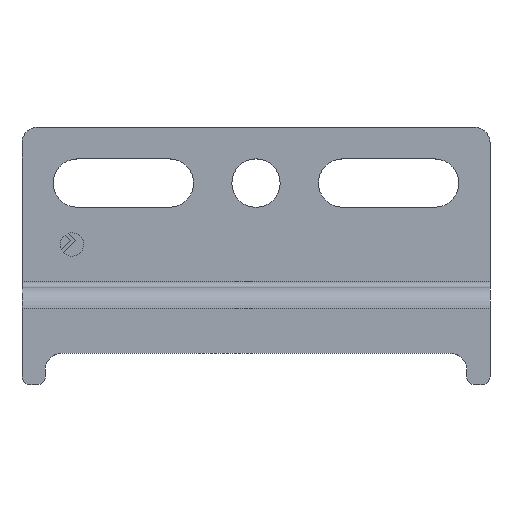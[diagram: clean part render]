
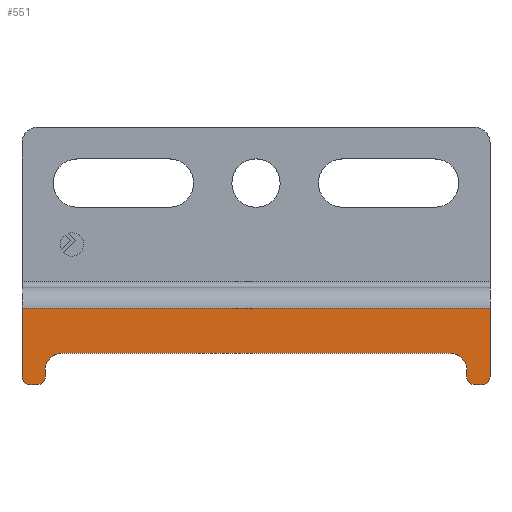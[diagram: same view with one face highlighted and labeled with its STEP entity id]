
A CAD part, top view. The second image highlights one B-rep face of the part: STEP entity #551.
In plain terms, the highlighted free-form (B-spline) face has degree [1, 1] with [2, 2] control points.
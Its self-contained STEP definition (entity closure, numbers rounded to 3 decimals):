
#3 = DIRECTION ( 'NONE',  ( -1., 0., 0. ) ) ;
#28 = ORIENTED_EDGE ( 'NONE', *, *, #30, .T. ) ;
#30 = EDGE_CURVE ( 'NONE', #955, #1389, #586, .T. ) ;
#34 = DIRECTION ( 'NONE',  ( -1., 0., 0. ) ) ;
#60 = ORIENTED_EDGE ( 'NONE', *, *, #1518, .T. ) ;
#63 = VECTOR ( 'NONE', #1410, 1000. ) ;
#66 = EDGE_LOOP ( 'NONE', ( #358, #1348, #28, #1489, #121, #1504, #225, #1628, #582, #320, #1474, #60, #1539, #1017 ) ) ;
#93 = B_SPLINE_SURFACE_WITH_KNOTS ( 'NONE', 1, 1, ( 
 ( #1434, #1046 ),
 ( #1032, #1310 ) ),
 .UNSPECIFIED., .F., .F., .F.,
 ( 2, 2 ),
 ( 2, 2 ),
 ( 2.504, 12.696 ),
 ( -61.2, 1.2 ),
 .UNSPECIFIED. ) ;
#97 = VERTEX_POINT ( 'NONE', #331 ) ;
#112 = EDGE_CURVE ( 'NONE', #1411, #1384, #1381, .T. ) ;
#121 = ORIENTED_EDGE ( 'NONE', *, *, #964, .T. ) ;
#142 = DIRECTION ( 'NONE',  ( 0., 0., -1. ) ) ;
#145 = DIRECTION ( 'NONE',  ( 0., 1., 0. ) ) ;
#155 = CARTESIAN_POINT ( 'NONE',  ( -25., -6.5, 5.8 ) ) ;
#159 = CARTESIAN_POINT ( 'NONE',  ( -30., -9.5, 5.8 ) ) ;
#183 = CARTESIAN_POINT ( 'NONE',  ( -29., -9.5, 5.8 ) ) ;
#188 = EDGE_CURVE ( 'NONE', #1389, #1163, #546, .T. ) ;
#202 = DIRECTION ( 'NONE',  ( 0., -1., 0. ) ) ;
#206 = CARTESIAN_POINT ( 'NONE',  ( -28., -10.5, 5.8 ) ) ;
#214 = AXIS2_PLACEMENT_3D ( 'NONE', #183, #1113, #600 ) ;
#225 = ORIENTED_EDGE ( 'NONE', *, *, #395, .T. ) ;
#264 = CARTESIAN_POINT ( 'NONE',  ( -25., -8.5, 5.8 ) ) ;
#281 = FACE_OUTER_BOUND ( 'NONE', #66, .T. ) ;
#282 = CIRCLE ( 'NONE', #421, 2. ) ;
#283 = AXIS2_PLACEMENT_3D ( 'NONE', #947, #1048, #798 ) ;
#284 = CARTESIAN_POINT ( 'NONE',  ( -27., -9.5, 5.8 ) ) ;
#320 = ORIENTED_EDGE ( 'NONE', *, *, #697, .T. ) ;
#328 = DIRECTION ( 'NONE',  ( 0., -1., 0. ) ) ;
#331 = CARTESIAN_POINT ( 'NONE',  ( -27., -8.5, 5.8 ) ) ;
#349 = VERTEX_POINT ( 'NONE', #1099 ) ;
#358 = ORIENTED_EDGE ( 'NONE', *, *, #112, .T. ) ;
#378 = VERTEX_POINT ( 'NONE', #155 ) ;
#379 = CARTESIAN_POINT ( 'NONE',  ( 29., -9.5, 5.8 ) ) ;
#395 = EDGE_CURVE ( 'NONE', #349, #584, #446, .T. ) ;
#405 = CARTESIAN_POINT ( 'NONE',  ( 25., -6.5, 5.8 ) ) ;
#416 = VECTOR ( 'NONE', #1594, 1000. ) ;
#421 = AXIS2_PLACEMENT_3D ( 'NONE', #264, #142, #3 ) ;
#446 = LINE ( 'NONE', #1241, #1603 ) ;
#454 = CARTESIAN_POINT ( 'NONE',  ( -28., -9.5, 5.8 ) ) ;
#502 = AXIS2_PLACEMENT_3D ( 'NONE', #1464, #802, #1454 ) ;
#522 = DIRECTION ( 'NONE',  ( 0., 1., 0. ) ) ;
#546 = CIRCLE ( 'NONE', #1034, 1. ) ;
#551 = ADVANCED_FACE ( 'NONE', ( #281 ), #93, .T. ) ;
#560 = VERTEX_POINT ( 'NONE', #1173 ) ;
#582 = ORIENTED_EDGE ( 'NONE', *, *, #997, .T. ) ;
#584 = VERTEX_POINT ( 'NONE', #159 ) ;
#586 = LINE ( 'NONE', #695, #416 ) ;
#600 = DIRECTION ( 'NONE',  ( -1., 0., 0. ) ) ;
#639 = VECTOR ( 'NONE', #522, 1000. ) ;
#640 = CARTESIAN_POINT ( 'NONE',  ( 27., -9.5, 5.8 ) ) ;
#650 = CARTESIAN_POINT ( 'NONE',  ( 30., -0.7, 5.8 ) ) ;
#664 = LINE ( 'NONE', #405, #801 ) ;
#670 = CARTESIAN_POINT ( 'NONE',  ( 28., -10.5, 5.8 ) ) ;
#677 = DIRECTION ( 'NONE',  ( 1., 0., 0. ) ) ;
#679 = CARTESIAN_POINT ( 'NONE',  ( 30., -9.5, 5.8 ) ) ;
#695 = CARTESIAN_POINT ( 'NONE',  ( 28., -10.5, 5.8 ) ) ;
#697 = EDGE_CURVE ( 'NONE', #1231, #1455, #1232, .T. ) ;
#769 = VERTEX_POINT ( 'NONE', #1018 ) ;
#798 = DIRECTION ( 'NONE',  ( 0., 1., 0. ) ) ;
#801 = VECTOR ( 'NONE', #34, 1000. ) ;
#802 = DIRECTION ( 'NONE',  ( 0., 0., 1. ) ) ;
#893 = DIRECTION ( 'NONE',  ( 0., -1., 0. ) ) ;
#910 = CARTESIAN_POINT ( 'NONE',  ( 30., -9.5, 5.8 ) ) ;
#932 = VECTOR ( 'NONE', #677, 1000. ) ;
#936 = CARTESIAN_POINT ( 'NONE',  ( -29., -10.5, 5.8 ) ) ;
#947 = CARTESIAN_POINT ( 'NONE',  ( 25., -8.5, 5.8 ) ) ;
#955 = VERTEX_POINT ( 'NONE', #670 ) ;
#964 = EDGE_CURVE ( 'NONE', #1163, #769, #1188, .T. ) ;
#997 = EDGE_CURVE ( 'NONE', #560, #1231, #1078, .T. ) ;
#1017 = ORIENTED_EDGE ( 'NONE', *, *, #1055, .T. ) ;
#1018 = CARTESIAN_POINT ( 'NONE',  ( 30., -0.7, 5.8 ) ) ;
#1032 = CARTESIAN_POINT ( 'NONE',  ( -31.2, -10.696, 5.8 ) ) ;
#1034 = AXIS2_PLACEMENT_3D ( 'NONE', #379, #1043, #893 ) ;
#1043 = DIRECTION ( 'NONE',  ( 0., 0., 1. ) ) ;
#1046 = CARTESIAN_POINT ( 'NONE',  ( 31.2, -0.504, 5.8 ) ) ;
#1048 = DIRECTION ( 'NONE',  ( 0., 0., -1. ) ) ;
#1055 = EDGE_CURVE ( 'NONE', #1535, #1411, #1323, .T. ) ;
#1064 = EDGE_CURVE ( 'NONE', #1455, #97, #1577, .T. ) ;
#1078 = LINE ( 'NONE', #936, #932 ) ;
#1091 = EDGE_CURVE ( 'NONE', #1535, #378, #664, .T. ) ;
#1099 = CARTESIAN_POINT ( 'NONE',  ( -30., -0.7, 5.8 ) ) ;
#1108 = EDGE_CURVE ( 'NONE', #1384, #955, #1240, .T. ) ;
#1113 = DIRECTION ( 'NONE',  ( 0., 0., 1. ) ) ;
#1163 = VERTEX_POINT ( 'NONE', #679 ) ;
#1173 = CARTESIAN_POINT ( 'NONE',  ( -29., -10.5, 5.8 ) ) ;
#1188 = LINE ( 'NONE', #910, #639 ) ;
#1191 = DIRECTION ( 'NONE',  ( 0., -1., 0. ) ) ;
#1231 = VERTEX_POINT ( 'NONE', #206 ) ;
#1232 = CIRCLE ( 'NONE', #1611, 1. ) ;
#1240 = CIRCLE ( 'NONE', #502, 1. ) ;
#1241 = CARTESIAN_POINT ( 'NONE',  ( -30., -0.7, 5.8 ) ) ;
#1245 = CARTESIAN_POINT ( 'NONE',  ( 27., -8.5, 5.8 ) ) ;
#1275 = CARTESIAN_POINT ( 'NONE',  ( -27., -9.5, 5.8 ) ) ;
#1290 = VECTOR ( 'NONE', #202, 1000. ) ;
#1309 = CARTESIAN_POINT ( 'NONE',  ( 29., -10.5, 5.8 ) ) ;
#1310 = CARTESIAN_POINT ( 'NONE',  ( 31.2, -10.696, 5.8 ) ) ;
#1323 = CIRCLE ( 'NONE', #283, 2. ) ;
#1348 = ORIENTED_EDGE ( 'NONE', *, *, #1108, .T. ) ;
#1381 = LINE ( 'NONE', #1245, #1290 ) ;
#1384 = VERTEX_POINT ( 'NONE', #640 ) ;
#1389 = VERTEX_POINT ( 'NONE', #1309 ) ;
#1410 = DIRECTION ( 'NONE',  ( -1., 0., 0. ) ) ;
#1411 = VERTEX_POINT ( 'NONE', #1558 ) ;
#1434 = CARTESIAN_POINT ( 'NONE',  ( -31.2, -0.504, 5.8 ) ) ;
#1454 = DIRECTION ( 'NONE',  ( -1., 0., 0. ) ) ;
#1455 = VERTEX_POINT ( 'NONE', #1275 ) ;
#1464 = CARTESIAN_POINT ( 'NONE',  ( 28., -9.5, 5.8 ) ) ;
#1474 = ORIENTED_EDGE ( 'NONE', *, *, #1064, .T. ) ;
#1489 = ORIENTED_EDGE ( 'NONE', *, *, #188, .T. ) ;
#1491 = EDGE_CURVE ( 'NONE', #769, #349, #1534, .T. ) ;
#1496 = DIRECTION ( 'NONE',  ( 0., 0., 1. ) ) ;
#1504 = ORIENTED_EDGE ( 'NONE', *, *, #1491, .T. ) ;
#1518 = EDGE_CURVE ( 'NONE', #97, #378, #282, .T. ) ;
#1534 = LINE ( 'NONE', #650, #63 ) ;
#1535 = VERTEX_POINT ( 'NONE', #1607 ) ;
#1538 = VECTOR ( 'NONE', #145, 1000. ) ;
#1539 = ORIENTED_EDGE ( 'NONE', *, *, #1091, .F. ) ;
#1547 = CIRCLE ( 'NONE', #214, 1. ) ;
#1558 = CARTESIAN_POINT ( 'NONE',  ( 27., -8.5, 5.8 ) ) ;
#1577 = LINE ( 'NONE', #284, #1538 ) ;
#1594 = DIRECTION ( 'NONE',  ( 1., 0., 0. ) ) ;
#1603 = VECTOR ( 'NONE', #1191, 1000. ) ;
#1607 = CARTESIAN_POINT ( 'NONE',  ( 25., -6.5, 5.8 ) ) ;
#1611 = AXIS2_PLACEMENT_3D ( 'NONE', #454, #1496, #328 ) ;
#1626 = EDGE_CURVE ( 'NONE', #584, #560, #1547, .T. ) ;
#1628 = ORIENTED_EDGE ( 'NONE', *, *, #1626, .T. ) ;
